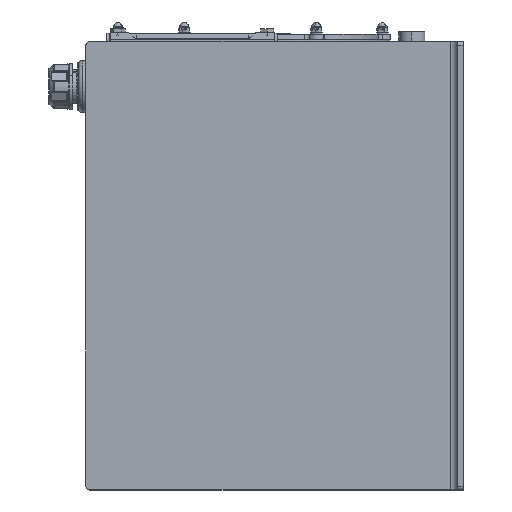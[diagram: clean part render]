
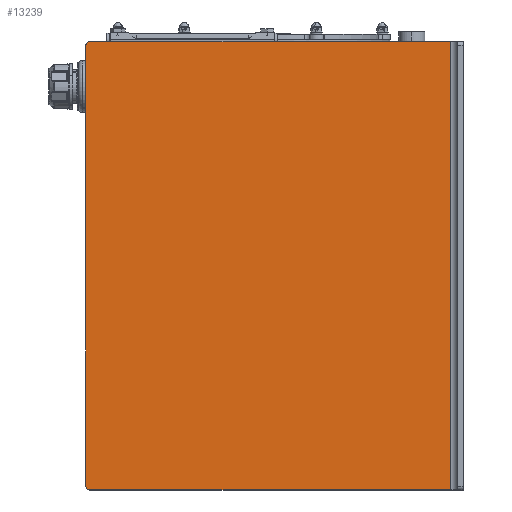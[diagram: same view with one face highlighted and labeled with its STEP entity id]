
A CAD part, left-side view. The second image highlights one B-rep face of the part: STEP entity #13239.
In plain terms, the highlighted planar face has unit normal (-1, 0, 0) as drawn and (0, 0, 1) by its records, which use the part's own axes.
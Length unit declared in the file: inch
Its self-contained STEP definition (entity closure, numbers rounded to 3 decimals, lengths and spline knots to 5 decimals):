
#566 = CARTESIAN_POINT ( 'NONE',  ( 14.75, 12.375, 0. ) ) ;
#793 = VECTOR ( 'NONE', #5670, 39.37008 ) ;
#1201 = VERTEX_POINT ( 'NONE', #23553 ) ;
#1276 = EDGE_CURVE ( 'NONE', #32060, #9815, #5558, .T. ) ;
#1891 = FACE_OUTER_BOUND ( 'NONE', #28479, .T. ) ;
#2451 = LINE ( 'NONE', #27598, #793 ) ;
#3306 = VECTOR ( 'NONE', #27305, 39.37008 ) ;
#3453 = EDGE_CURVE ( 'NONE', #9815, #28030, #5878, .T. ) ;
#3986 = ORIENTED_EDGE ( 'NONE', *, *, #25403, .T. ) ;
#4011 = CARTESIAN_POINT ( 'NONE',  ( 15., -11.7812, 0. ) ) ;
#4642 = DIRECTION ( 'NONE',  ( -1., 0., 0. ) ) ;
#5558 = LINE ( 'NONE', #8074, #3306 ) ;
#5670 = DIRECTION ( 'NONE',  ( 0., -1., 0. ) ) ;
#5878 = CIRCLE ( 'NONE', #8733, 0.25 ) ;
#6299 = DIRECTION ( 'NONE',  ( 0., 0., 1. ) ) ;
#6695 = EDGE_CURVE ( 'NONE', #28030, #32972, #2451, .T. ) ;
#6969 = ORIENTED_EDGE ( 'NONE', *, *, #18660, .F. ) ;
#8074 = CARTESIAN_POINT ( 'NONE',  ( -15., 12.625, 0. ) ) ;
#8733 = AXIS2_PLACEMENT_3D ( 'NONE', #21798, #21442, #32408 ) ;
#9815 = VERTEX_POINT ( 'NONE', #20361 ) ;
#9966 = CARTESIAN_POINT ( 'NONE',  ( 0., 0., 0. ) ) ;
#13239 = ADVANCED_FACE ( 'NONE', ( #1891 ), #18067, .F. ) ;
#13370 = CARTESIAN_POINT ( 'NONE',  ( -15., -11.7812, 0. ) ) ;
#13706 = VECTOR ( 'NONE', #4642, 39.37008 ) ;
#14059 = ORIENTED_EDGE ( 'NONE', *, *, #6695, .T. ) ;
#14416 = CARTESIAN_POINT ( 'NONE',  ( 14.75, 12.625, 0. ) ) ;
#15973 = AXIS2_PLACEMENT_3D ( 'NONE', #566, #6299, #17259 ) ;
#17259 = DIRECTION ( 'NONE',  ( -1., 0., 0. ) ) ;
#18067 = PLANE ( 'NONE',  #32405 ) ;
#18660 = EDGE_CURVE ( 'NONE', #32115, #32972, #26374, .T. ) ;
#19481 = ORIENTED_EDGE ( 'NONE', *, *, #1276, .T. ) ;
#20361 = CARTESIAN_POINT ( 'NONE',  ( -14.75, 12.625, 0. ) ) ;
#20953 = DIRECTION ( 'NONE',  ( 0., 0., -1. ) ) ;
#21442 = DIRECTION ( 'NONE',  ( 0., 0., 1. ) ) ;
#21589 = CARTESIAN_POINT ( 'NONE',  ( -15., 12.375, 0. ) ) ;
#21798 = CARTESIAN_POINT ( 'NONE',  ( -14.75, 12.375, 0. ) ) ;
#23553 = CARTESIAN_POINT ( 'NONE',  ( 15., 12.375, 0. ) ) ;
#24041 = CARTESIAN_POINT ( 'NONE',  ( 15., -11.7812, 0. ) ) ;
#25174 = CIRCLE ( 'NONE', #15973, 0.25 ) ;
#25325 = CARTESIAN_POINT ( 'NONE',  ( 15., -12.625, 0. ) ) ;
#25382 = ORIENTED_EDGE ( 'NONE', *, *, #3453, .T. ) ;
#25403 = EDGE_CURVE ( 'NONE', #1201, #32060, #25174, .T. ) ;
#26374 = LINE ( 'NONE', #24041, #13706 ) ;
#27305 = DIRECTION ( 'NONE',  ( -1., 0., 0. ) ) ;
#27598 = CARTESIAN_POINT ( 'NONE',  ( -15., -12.625, 0. ) ) ;
#27665 = LINE ( 'NONE', #25325, #27946 ) ;
#27946 = VECTOR ( 'NONE', #30876, 39.37008 ) ;
#28030 = VERTEX_POINT ( 'NONE', #21589 ) ;
#28479 = EDGE_LOOP ( 'NONE', ( #29130, #3986, #19481, #25382, #14059, #6969 ) ) ;
#29016 = DIRECTION ( 'NONE',  ( -1., 0., 0. ) ) ;
#29130 = ORIENTED_EDGE ( 'NONE', *, *, #33938, .T. ) ;
#30876 = DIRECTION ( 'NONE',  ( 0., 1., 0. ) ) ;
#32060 = VERTEX_POINT ( 'NONE', #14416 ) ;
#32115 = VERTEX_POINT ( 'NONE', #4011 ) ;
#32405 = AXIS2_PLACEMENT_3D ( 'NONE', #9966, #20953, #29016 ) ;
#32408 = DIRECTION ( 'NONE',  ( -1., 0., 0. ) ) ;
#32972 = VERTEX_POINT ( 'NONE', #13370 ) ;
#33938 = EDGE_CURVE ( 'NONE', #32115, #1201, #27665, .T. ) ;
